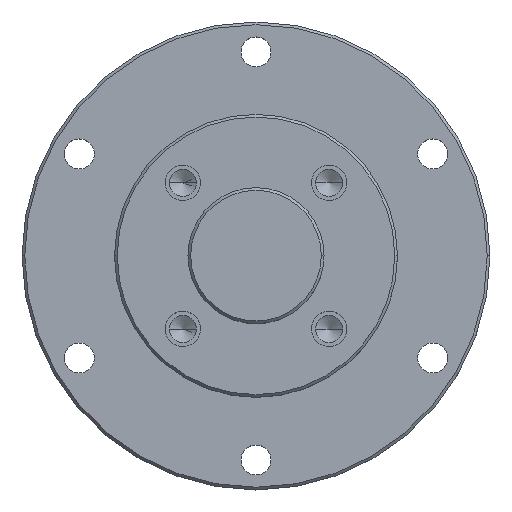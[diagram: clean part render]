
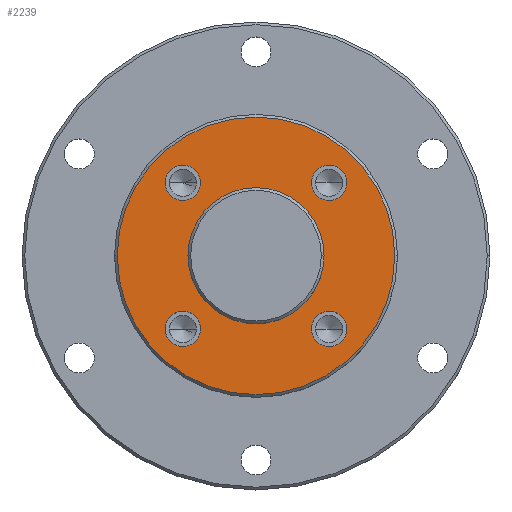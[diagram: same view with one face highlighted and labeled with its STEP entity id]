
A CAD part, top view. The second image highlights one B-rep face of the part: STEP entity #2239.
In plain terms, the highlighted planar face has unit normal (0, 0, 1).
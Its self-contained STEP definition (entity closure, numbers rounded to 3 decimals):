
#19 = VERTEX_POINT ( 'NONE', #82 ) ;
#82 = CARTESIAN_POINT ( 'NONE',  ( 16.685, 13.435, 0. ) ) ;
#87 = CARTESIAN_POINT ( 'NONE',  ( 0., 0., 0. ) ) ;
#93 = FACE_BOUND ( 'NONE', #3345, .T. ) ;
#105 = CIRCLE ( 'NONE', #3597, 25.5 ) ;
#149 = VERTEX_POINT ( 'NONE', #210 ) ;
#210 = CARTESIAN_POINT ( 'NONE',  ( 16.685, -13.435, 0. ) ) ;
#213 = VERTEX_POINT ( 'NONE', #2046 ) ;
#218 = FACE_BOUND ( 'NONE', #3751, .T. ) ;
#248 = CARTESIAN_POINT ( 'NONE',  ( -16.685, 13.435, 0. ) ) ;
#267 = DIRECTION ( 'NONE',  ( 0., 0., 1. ) ) ;
#355 = DIRECTION ( 'NONE',  ( 0., 0., 1. ) ) ;
#403 = EDGE_LOOP ( 'NONE', ( #2019, #717 ) ) ;
#474 = ORIENTED_EDGE ( 'NONE', *, *, #1660, .F. ) ;
#477 = DIRECTION ( 'NONE',  ( 0., 0., 1. ) ) ;
#525 = DIRECTION ( 'NONE',  ( 1., 0., 0. ) ) ;
#540 = DIRECTION ( 'NONE',  ( 0., 0., 1. ) ) ;
#687 = CARTESIAN_POINT ( 'NONE',  ( 0., 0., 0. ) ) ;
#709 = PLANE ( 'NONE',  #2058 ) ;
#713 = EDGE_CURVE ( 'NONE', #1577, #1382, #2740, .T. ) ;
#715 = AXIS2_PLACEMENT_3D ( 'NONE', #4253, #1903, #4668 ) ;
#717 = ORIENTED_EDGE ( 'NONE', *, *, #1647, .T. ) ;
#899 = ORIENTED_EDGE ( 'NONE', *, *, #4573, .F. ) ;
#916 = EDGE_LOOP ( 'NONE', ( #3536, #5008 ) ) ;
#973 = CARTESIAN_POINT ( 'NONE',  ( 0., 0., 0. ) ) ;
#1058 = CIRCLE ( 'NONE', #715, 3.25 ) ;
#1060 = CIRCLE ( 'NONE', #1247, 25.5 ) ;
#1109 = CIRCLE ( 'NONE', #1505, 3.25 ) ;
#1126 = DIRECTION ( 'NONE',  ( -1., 0., 0. ) ) ;
#1153 = DIRECTION ( 'NONE',  ( -1., 0., 0. ) ) ;
#1157 = DIRECTION ( 'NONE',  ( -1., 0., 0. ) ) ;
#1171 = ORIENTED_EDGE ( 'NONE', *, *, #713, .F. ) ;
#1191 = ORIENTED_EDGE ( 'NONE', *, *, #1464, .F. ) ;
#1236 = EDGE_CURVE ( 'NONE', #1879, #3186, #4979, .T. ) ;
#1241 = FACE_BOUND ( 'NONE', #3093, .T. ) ;
#1247 = AXIS2_PLACEMENT_3D ( 'NONE', #687, #3546, #1126 ) ;
#1382 = VERTEX_POINT ( 'NONE', #5004 ) ;
#1383 = EDGE_CURVE ( 'NONE', #4992, #3308, #105, .T. ) ;
#1464 = EDGE_CURVE ( 'NONE', #213, #1649, #4061, .T. ) ;
#1505 = AXIS2_PLACEMENT_3D ( 'NONE', #2989, #477, #3384 ) ;
#1521 = ORIENTED_EDGE ( 'NONE', *, *, #3973, .F. ) ;
#1527 = CIRCLE ( 'NONE', #4458, 3.25 ) ;
#1547 = EDGE_CURVE ( 'NONE', #3186, #1879, #3575, .T. ) ;
#1577 = VERTEX_POINT ( 'NONE', #4442 ) ;
#1585 = CARTESIAN_POINT ( 'NONE',  ( 13.435, 13.435, 0. ) ) ;
#1596 = CARTESIAN_POINT ( 'NONE',  ( -13.435, -13.435, 0. ) ) ;
#1647 = EDGE_CURVE ( 'NONE', #3308, #4992, #1060, .T. ) ;
#1649 = VERTEX_POINT ( 'NONE', #248 ) ;
#1660 = EDGE_CURVE ( 'NONE', #19, #4671, #2038, .T. ) ;
#1666 = DIRECTION ( 'NONE',  ( 0., 0., 1. ) ) ;
#1741 = EDGE_CURVE ( 'NONE', #149, #2899, #1527, .T. ) ;
#1832 = AXIS2_PLACEMENT_3D ( 'NONE', #2785, #267, #3190 ) ;
#1838 = EDGE_LOOP ( 'NONE', ( #4295, #1171 ) ) ;
#1861 = AXIS2_PLACEMENT_3D ( 'NONE', #1585, #4337, #1992 ) ;
#1879 = VERTEX_POINT ( 'NONE', #2017 ) ;
#1903 = DIRECTION ( 'NONE',  ( 0., 0., 1. ) ) ;
#1904 = EDGE_CURVE ( 'NONE', #1382, #1577, #3167, .T. ) ;
#1992 = DIRECTION ( 'NONE',  ( -1., 0., 0. ) ) ;
#2002 = DIRECTION ( 'NONE',  ( 0., 0., 1. ) ) ;
#2006 = DIRECTION ( 'NONE',  ( -1., 0., 0. ) ) ;
#2017 = CARTESIAN_POINT ( 'NONE',  ( -16.685, -13.435, 0. ) ) ;
#2019 = ORIENTED_EDGE ( 'NONE', *, *, #1383, .T. ) ;
#2038 = CIRCLE ( 'NONE', #1832, 3.25 ) ;
#2046 = CARTESIAN_POINT ( 'NONE',  ( -10.185, 13.435, 0. ) ) ;
#2058 = AXIS2_PLACEMENT_3D ( 'NONE', #5181, #3573, #1153 ) ;
#2239 = ADVANCED_FACE ( 'NONE', ( #2470, #218, #2351, #1241, #93, #3414 ), #709, .F. ) ;
#2351 = FACE_BOUND ( 'NONE', #916, .T. ) ;
#2418 = CARTESIAN_POINT ( 'NONE',  ( 10.185, 13.435, 0. ) ) ;
#2454 = CARTESIAN_POINT ( 'NONE',  ( 0., 0., 0. ) ) ;
#2470 = FACE_OUTER_BOUND ( 'NONE', #403, .T. ) ;
#2730 = AXIS2_PLACEMENT_3D ( 'NONE', #4353, #2002, #4774 ) ;
#2740 = CIRCLE ( 'NONE', #5265, 12.5 ) ;
#2785 = CARTESIAN_POINT ( 'NONE',  ( 13.435, 13.435, 0. ) ) ;
#2818 = AXIS2_PLACEMENT_3D ( 'NONE', #1596, #4359, #2006 ) ;
#2860 = DIRECTION ( 'NONE',  ( 1., 0., 0. ) ) ;
#2866 = CARTESIAN_POINT ( 'NONE',  ( -13.435, -13.435, 0. ) ) ;
#2899 = VERTEX_POINT ( 'NONE', #4389 ) ;
#2989 = CARTESIAN_POINT ( 'NONE',  ( 13.435, -13.435, 0. ) ) ;
#3026 = DIRECTION ( 'NONE',  ( 0., 0., 1. ) ) ;
#3093 = EDGE_LOOP ( 'NONE', ( #474, #899 ) ) ;
#3167 = CIRCLE ( 'NONE', #4094, 12.5 ) ;
#3186 = VERTEX_POINT ( 'NONE', #3394 ) ;
#3190 = DIRECTION ( 'NONE',  ( -1., 0., 0. ) ) ;
#3271 = DIRECTION ( 'NONE',  ( -1., 0., 0. ) ) ;
#3308 = VERTEX_POINT ( 'NONE', #5306 ) ;
#3345 = EDGE_LOOP ( 'NONE', ( #4548, #1521 ) ) ;
#3384 = DIRECTION ( 'NONE',  ( 1., 0., 0. ) ) ;
#3394 = CARTESIAN_POINT ( 'NONE',  ( -10.185, -13.435, 0. ) ) ;
#3414 = FACE_BOUND ( 'NONE', #1838, .T. ) ;
#3508 = AXIS2_PLACEMENT_3D ( 'NONE', #2866, #355, #3271 ) ;
#3536 = ORIENTED_EDGE ( 'NONE', *, *, #1547, .F. ) ;
#3546 = DIRECTION ( 'NONE',  ( 0., 0., 1. ) ) ;
#3573 = DIRECTION ( 'NONE',  ( 0., 0., -1. ) ) ;
#3575 = CIRCLE ( 'NONE', #3508, 3.25 ) ;
#3597 = AXIS2_PLACEMENT_3D ( 'NONE', #973, #540, #1157 ) ;
#3655 = EDGE_CURVE ( 'NONE', #1649, #213, #1058, .T. ) ;
#3751 = EDGE_LOOP ( 'NONE', ( #1191, #4282 ) ) ;
#3973 = EDGE_CURVE ( 'NONE', #2899, #149, #1109, .T. ) ;
#4015 = CARTESIAN_POINT ( 'NONE',  ( 13.435, -13.435, 0. ) ) ;
#4061 = CIRCLE ( 'NONE', #2730, 3.25 ) ;
#4094 = AXIS2_PLACEMENT_3D ( 'NONE', #2454, #5251, #2860 ) ;
#4185 = CIRCLE ( 'NONE', #1861, 3.25 ) ;
#4253 = CARTESIAN_POINT ( 'NONE',  ( -13.435, 13.435, 0. ) ) ;
#4282 = ORIENTED_EDGE ( 'NONE', *, *, #3655, .F. ) ;
#4295 = ORIENTED_EDGE ( 'NONE', *, *, #1904, .F. ) ;
#4337 = DIRECTION ( 'NONE',  ( 0., 0., 1. ) ) ;
#4353 = CARTESIAN_POINT ( 'NONE',  ( -13.435, 13.435, 0. ) ) ;
#4359 = DIRECTION ( 'NONE',  ( 0., 0., 1. ) ) ;
#4389 = CARTESIAN_POINT ( 'NONE',  ( 10.185, -13.435, 0. ) ) ;
#4415 = DIRECTION ( 'NONE',  ( 1., 0., 0. ) ) ;
#4442 = CARTESIAN_POINT ( 'NONE',  ( -12.5, 0., 0. ) ) ;
#4458 = AXIS2_PLACEMENT_3D ( 'NONE', #4015, #1666, #4415 ) ;
#4522 = CARTESIAN_POINT ( 'NONE',  ( -25.5, 0., 0. ) ) ;
#4548 = ORIENTED_EDGE ( 'NONE', *, *, #1741, .F. ) ;
#4573 = EDGE_CURVE ( 'NONE', #4671, #19, #4185, .T. ) ;
#4668 = DIRECTION ( 'NONE',  ( 1., 0., 0. ) ) ;
#4671 = VERTEX_POINT ( 'NONE', #2418 ) ;
#4774 = DIRECTION ( 'NONE',  ( 1., 0., 0. ) ) ;
#4979 = CIRCLE ( 'NONE', #2818, 3.25 ) ;
#4992 = VERTEX_POINT ( 'NONE', #4522 ) ;
#5004 = CARTESIAN_POINT ( 'NONE',  ( 12.5, 0., 0. ) ) ;
#5008 = ORIENTED_EDGE ( 'NONE', *, *, #1236, .F. ) ;
#5181 = CARTESIAN_POINT ( 'NONE',  ( 0., 26., 0. ) ) ;
#5251 = DIRECTION ( 'NONE',  ( 0., 0., 1. ) ) ;
#5265 = AXIS2_PLACEMENT_3D ( 'NONE', #87, #3026, #525 ) ;
#5306 = CARTESIAN_POINT ( 'NONE',  ( 25.5, 0., 0. ) ) ;
